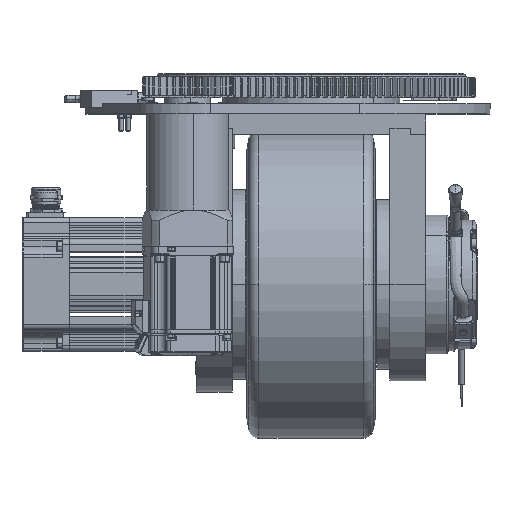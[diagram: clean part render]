
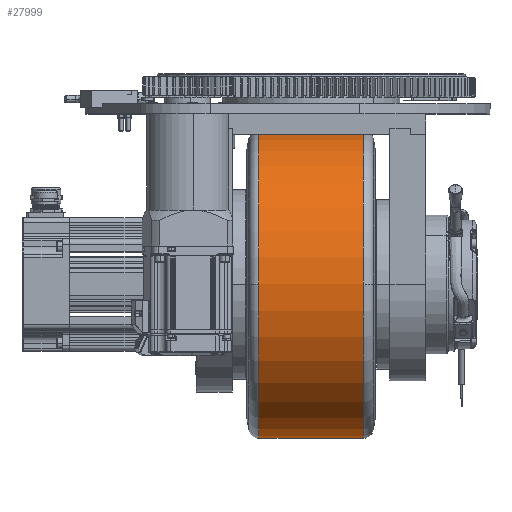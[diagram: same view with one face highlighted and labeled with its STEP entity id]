
A CAD part, top view. The second image highlights one B-rep face of the part: STEP entity #27999.
In plain terms, the highlighted cylindrical face has radius 150 mm (diameter 300 mm), a partial arc.
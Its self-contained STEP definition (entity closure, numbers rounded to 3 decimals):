
#14328 = DIRECTION ( 'NONE',  ( 1., 0., 0. ) ) ;
#14350 = CARTESIAN_POINT ( 'NONE',  ( -2.082, -11.374, 19.907 ) ) ;
#14367 = DIRECTION ( 'NONE',  ( 0., -1., 0. ) ) ;
#27999 = ADVANCED_FACE ( 'NONE', ( #127149 ), #127195, .T. ) ;
#28738 = VERTEX_POINT ( 'NONE', #50289 ) ;
#29211 = VERTEX_POINT ( 'NONE', #141664 ) ;
#29235 = VERTEX_POINT ( 'NONE', #141939 ) ;
#29344 = VERTEX_POINT ( 'NONE', #138364 ) ;
#29786 = VERTEX_POINT ( 'NONE', #112425 ) ;
#30154 = VERTEX_POINT ( 'NONE', #42687 ) ;
#42687 = CARTESIAN_POINT ( 'NONE',  ( 8.501, -11.374, 169.907 ) ) ;
#48876 = AXIS2_PLACEMENT_3D ( 'NONE', #117716, #117717, #117718 ) ;
#48896 = AXIS2_PLACEMENT_3D ( 'NONE', #117754, #117755, #117756 ) ;
#49402 = AXIS2_PLACEMENT_3D ( 'NONE', #124591, #124592, #124593 ) ;
#50005 = AXIS2_PLACEMENT_3D ( 'NONE', #133756, #133757, #133759 ) ;
#50289 = CARTESIAN_POINT ( 'NONE',  ( -93.164, 138.626, 19.907 ) ) ;
#89543 = EDGE_CURVE ( 'NONE', #28738, #29344, #108537, .T. ) ;
#90078 = EDGE_CURVE ( 'NONE', #29211, #30154, #109114, .T. ) ;
#90116 = EDGE_CURVE ( 'NONE', #29786, #29235, #109165, .T. ) ;
#90461 = EDGE_CURVE ( 'NONE', #29235, #29211, #109797, .T. ) ;
#90672 = EDGE_CURVE ( 'NONE', #30154, #29344, #125340, .T. ) ;
#91304 = EDGE_CURVE ( 'NONE', #28738, #29786, #126178, .T. ) ;
#103627 = AXIS2_PLACEMENT_3D ( 'NONE', #14350, #14328, #14367 ) ;
#108537 = LINE ( 'NONE', #114914, #108544 ) ;
#108544 = VECTOR ( 'NONE', #114924, 1000. ) ;
#109114 = CIRCLE ( 'NONE', #48876, 150. ) ;
#109165 = CIRCLE ( 'NONE', #48896, 150. ) ;
#109797 = LINE ( 'NONE', #118298, #109823 ) ;
#109823 = VECTOR ( 'NONE', #118307, 1000. ) ;
#112425 = CARTESIAN_POINT ( 'NONE',  ( -93.164, -11.374, 169.907 ) ) ;
#114914 = CARTESIAN_POINT ( 'NONE',  ( -2.082, 138.626, 19.907 ) ) ;
#114924 = DIRECTION ( 'NONE',  ( 1., 0., 0. ) ) ;
#117716 = CARTESIAN_POINT ( 'NONE',  ( 8.501, -11.374, 19.907 ) ) ;
#117717 = DIRECTION ( 'NONE',  ( -1., 0., 0. ) ) ;
#117718 = DIRECTION ( 'NONE',  ( 0., 0., 1. ) ) ;
#117754 = CARTESIAN_POINT ( 'NONE',  ( -93.164, -11.374, 19.907 ) ) ;
#117755 = DIRECTION ( 'NONE',  ( 1., 0., 0. ) ) ;
#117756 = DIRECTION ( 'NONE',  ( 0., 0., 1. ) ) ;
#118298 = CARTESIAN_POINT ( 'NONE',  ( -2.082, -161.374, 19.907 ) ) ;
#118307 = DIRECTION ( 'NONE',  ( 1., 0., 0. ) ) ;
#124591 = CARTESIAN_POINT ( 'NONE',  ( 8.501, -11.374, 19.907 ) ) ;
#124592 = DIRECTION ( 'NONE',  ( -1., 0., 0. ) ) ;
#124593 = DIRECTION ( 'NONE',  ( 0., 0., 1. ) ) ;
#125340 = CIRCLE ( 'NONE', #49402, 150. ) ;
#126178 = CIRCLE ( 'NONE', #50005, 150. ) ;
#127149 = FACE_OUTER_BOUND ( 'NONE', #166148, .T. ) ;
#127195 = CYLINDRICAL_SURFACE ( 'NONE', #103627, 150. ) ;
#133756 = CARTESIAN_POINT ( 'NONE',  ( -93.164, -11.374, 19.907 ) ) ;
#133757 = DIRECTION ( 'NONE',  ( 1., 0., 0. ) ) ;
#133759 = DIRECTION ( 'NONE',  ( 0., 0., 1. ) ) ;
#138364 = CARTESIAN_POINT ( 'NONE',  ( 8.501, 138.626, 19.907 ) ) ;
#141664 = CARTESIAN_POINT ( 'NONE',  ( 8.501, -161.374, 19.907 ) ) ;
#141939 = CARTESIAN_POINT ( 'NONE',  ( -93.164, -161.374, 19.907 ) ) ;
#146814 = ORIENTED_EDGE ( 'NONE', *, *, #90672, .T. ) ;
#146816 = ORIENTED_EDGE ( 'NONE', *, *, #90078, .T. ) ;
#146819 = ORIENTED_EDGE ( 'NONE', *, *, #90461, .T. ) ;
#146835 = ORIENTED_EDGE ( 'NONE', *, *, #90116, .T. ) ;
#146836 = ORIENTED_EDGE ( 'NONE', *, *, #91304, .T. ) ;
#146839 = ORIENTED_EDGE ( 'NONE', *, *, #89543, .F. ) ;
#166148 = EDGE_LOOP ( 'NONE', ( #146839, #146836, #146835, #146819, #146816, #146814 ) ) ;
